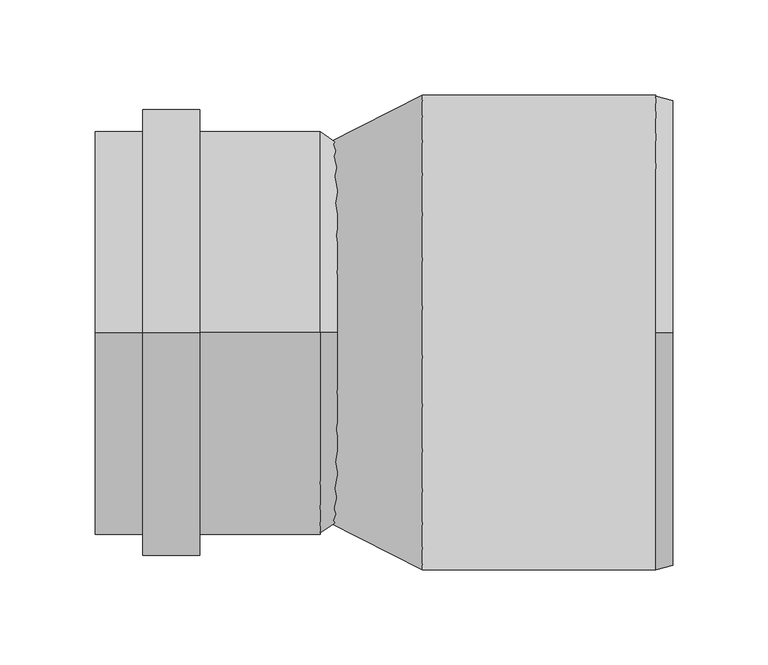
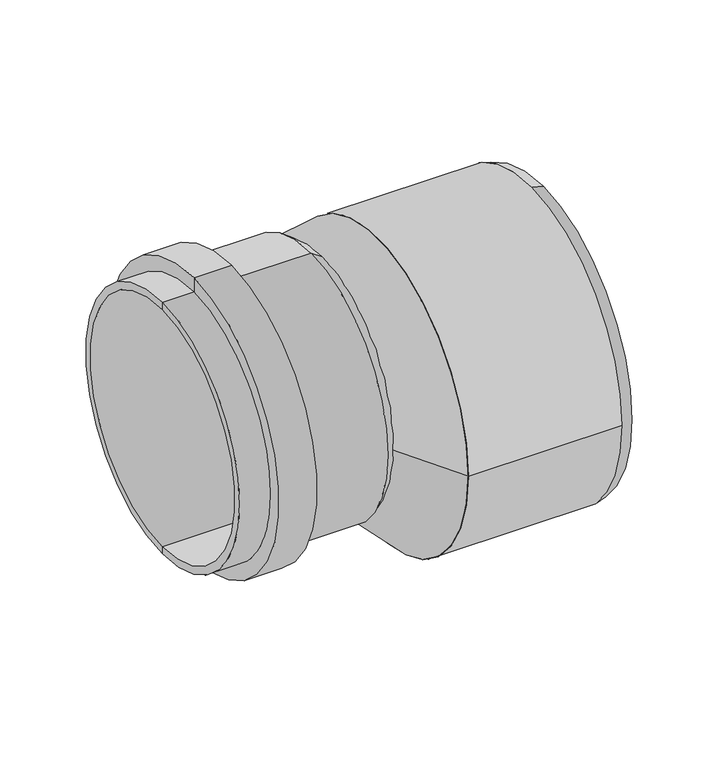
"""IFC4 building model written with IfcOpenShell, lengths in millimetres: pipe fitting geometry, OSMA_KG2000_PPKGR : Redukce nesouosá dlouhá."""

from ifc_helpers import new_model, si_unit, frame, origin, place, context, project, spatial, polyline, circle_curve, source, transform, mapped, element, save
from ifc_brep_helpers import plane_surface, cylinder_surface, revolved_surface, spline_surface, advanced_brep


def pipe_fitting_a9483296(model_context):
    return source(origin(), model_context, "Body", "AdvancedBrep", [
        advanced_brep(
        [(-4.5, 0.0, 100.0), (-4.5, 0.0, -100.0), (-123.0, 0.0, -100.0), (-123.0, 0.0, 100.0), (-68.0, 0.0, 106.2), (-68.0, 0.0, -106.2), (-4.5, 0.0, -106.2), (-4.5, 0.0, 106.2), (-68.0, 0.0, -118.0), (-68.0, 0.0, 118.0), (-98.0, 0.0, -118.0), (-98.0, 0.0, 118.0), (-98.0, 0.0, -106.2), (-98.0, 0.0, 106.2), (-123.0, 0.0, -106.2), (-123.0, 0.0, 106.2), (4.5, 0.0, 93.8), (4.5, 0.0, -93.8), (4.5, 0.0, 100.0), (4.5, 0.0, -100.0)],
        [
            (0, 1, circle_curve(frame((-4.5, 0.0, 0.0), z_axis=(1.0, 0.0, 0.0), x_axis=(0.0, 0.0, -1.0)), 100.0)),
            (1, 2),
            (2, 3, circle_curve(frame((-123.0, 0.0, 0.0), z_axis=(-1.0, 0.0, 0.0), x_axis=(0.0, 0.0, -1.0)), 100.0)),
            (3, 0),
            (1, 0, circle_curve(frame((-4.5, 0.0, 0.0), z_axis=(1.0, 0.0, 0.0), x_axis=(0.0, 0.0, -1.0)), 100.0)),
            (3, 2, circle_curve(frame((-123.0, 0.0, 0.0), z_axis=(-1.0, 0.0, 0.0), x_axis=(0.0, 0.0, -1.0)), 100.0)),
            (4, 5, circle_curve(frame((-68.0, 0.0, 0.0), z_axis=(1.0, 0.0, 0.0), x_axis=(0.0, 0.0, -1.0)), 106.2)),
            (5, 6),
            (6, 7, circle_curve(frame((-4.5, 0.0, 0.0), z_axis=(-1.0, 0.0, 0.0), x_axis=(0.0, 0.0, -1.0)), 106.2)),
            (7, 4),
            (8, 9, circle_curve(frame((-68.0, 0.0, 0.0), z_axis=(1.0, 0.0, 0.0), x_axis=(0.0, 0.0, -1.0)), 118.0)),
            (9, 4),
            (4, 5, circle_curve(frame((-68.0, 0.0, 0.0), z_axis=(-1.0, 0.0, 0.0), x_axis=(0.0, 0.0, -1.0)), 106.2)),
            (5, 8),
            (10, 11, circle_curve(frame((-98.0, 0.0, 0.0), z_axis=(1.0, 0.0, 0.0), x_axis=(0.0, 0.0, -1.0)), 118.0)),
            (11, 9),
            (8, 10),
            (12, 13, circle_curve(frame((-98.0, 0.0, 0.0), z_axis=(1.0, 0.0, 0.0), x_axis=(0.0, 0.0, -1.0)), 106.2)),
            (13, 11),
            (10, 12),
            (14, 15, circle_curve(frame((-123.0, 0.0, 0.0), z_axis=(1.0, 0.0, 0.0), x_axis=(0.0, 0.0, -1.0)), 106.2)),
            (15, 13),
            (12, 14),
            (16, 17, circle_curve(frame((4.5, 0.0, 0.0), z_axis=(1.0, 0.0, 0.0), x_axis=(0.0, 0.0, -1.0)), 93.8)),
            (17, 1),
            (0, 16),
            (17, 16, circle_curve(frame((4.5, 0.0, 0.0), z_axis=(1.0, 0.0, 0.0), x_axis=(0.0, 0.0, -1.0)), 93.8)),
            (18, 19, circle_curve(frame((4.5, 0.0, 0.0), z_axis=(1.0, 0.0, 0.0), x_axis=(0.0, 0.0, -1.0)), 100.0)),
            (19, 17),
            (16, 18),
            (19, 18, circle_curve(frame((4.5, 0.0, 0.0), z_axis=(1.0, 0.0, 0.0), x_axis=(0.0, 0.0, -1.0)), 100.0)),
            (6, 19),
            (18, 7),
            (6, 7, circle_curve(frame((-4.5, 0.0, 0.0), z_axis=(1.0, 0.0, 0.0), x_axis=(0.0, 0.0, -1.0)), 106.2)),
            (9, 8, circle_curve(frame((-68.0, 0.0, 0.0), z_axis=(1.0, 0.0, 0.0), x_axis=(0.0, 0.0, -1.0)), 118.0)),
            (11, 10, circle_curve(frame((-98.0, 0.0, 0.0), z_axis=(1.0, 0.0, 0.0), x_axis=(0.0, 0.0, -1.0)), 118.0)),
            (13, 12, circle_curve(frame((-98.0, 0.0, 0.0), z_axis=(1.0, 0.0, 0.0), x_axis=(0.0, 0.0, -1.0)), 106.2)),
            (15, 14, circle_curve(frame((-123.0, 0.0, 0.0), z_axis=(1.0, 0.0, 0.0), x_axis=(0.0, 0.0, -1.0)), 106.2)),
            (2, 14),
            (15, 3),
        ],
        [
            revolved_surface(polyline([(-123.0, 0.0, -100.0), (-4.5, 0.0, -100.0)]), (-2792.4742198, 0.0, 0.0), (-1.0, 0.0, 0.0)),
            cylinder_surface(frame((-2792.4742198, 0.0, 0.0), z_axis=(-1.0, 0.0, 0.0), x_axis=(0.0, 0.0, -1.0)), 106.2),
            plane_surface(frame((-68.0, 0.0, 0.0), z_axis=(1.0, 0.0, 0.0), x_axis=(0.0, 0.0, -1.0))),
            cylinder_surface(frame((-2792.4742198, 0.0, 0.0), z_axis=(-1.0, 0.0, 0.0), x_axis=(0.0, 0.0, -1.0)), 118.0),
            plane_surface(frame((-98.0, 0.0, 0.0), z_axis=(-1.0, 0.0, 0.0), x_axis=(0.0, 0.0, -1.0))),
            revolved_surface(polyline([(-4.5, 0.0, -100.0), (4.5, 0.0, -93.8)]), (-2792.4742198, 0.0, 0.0), (-1.0, 0.0, 0.0)),
            plane_surface(frame((4.5, 0.0, 0.0), z_axis=(1.0, 0.0, 0.0), x_axis=(0.0, 0.0, -1.0))),
            revolved_surface(polyline([(4.5, 0.0, -100.0), (-4.5, 0.0, -106.2)]), (-2792.4742198, 0.0, 0.0), (-1.0, 0.0, 0.0)),
            plane_surface(frame((-123.0, 0.0, 0.0), z_axis=(-1.0, 0.0, 0.0), x_axis=(0.0, 0.0, -1.0))),
        ],
        [
            (0, [[1, 2, 3, 4]]),
            (0, [[5, -4, 6, -2]]),
            (1, [[7, 8, 9, 10]]),
            (2, [[11, 12, 13, 14]]),
            (3, [[15, 16, -11, 17]]),
            (4, [[18, 19, -15, 20]]),
            (1, [[21, 22, -18, 23]]),
            (5, [[24, 25, -1, 26]]),
            (5, [[27, -26, -5, -25]]),
            (6, [[28, 29, -24, 30]]),
            (6, [[31, -30, -27, -29]]),
            (7, [[-9, 32, -28, 33]]),
            (7, [[34, -33, -31, -32]]),
            (1, [[-13, -10, -34, -8]]),
            (2, [[35, -14, -7, -12]]),
            (3, [[36, -17, -35, -16]]),
            (4, [[37, -20, -36, -19]]),
            (1, [[38, -23, -37, -22]]),
            (8, [[-3, 39, -38, 40]]),
            (8, [[-6, -40, -21, -39]]),
        ],
    ),
        advanced_brep(
        [(181.0, 0.0, -147.5884573), (181.0, 0.0, 97.5884573), (181.0, 0.0, 92.3), (181.0, 0.0, -142.3), (172.0, 0.0, -150.0), (172.0, 125.0, -25.0), (172.0, 0.0, 100.0), (172.0, -125.0, -25.0), (172.0, 0.0, 92.3), (172.0, 0.0, -142.3), (49.0, 125.0, -25.0), (49.0, -125.0, -25.0)],
        [
            (0, 1, circle_curve(frame((181.0, 0.0, -25.0), z_axis=(1.0, 0.0, 0.0), x_axis=(0.0, 0.0, 1.0)), 122.5884573)),
            (1, 2),
            (2, 3, circle_curve(frame((181.0, 0.0, -25.0), z_axis=(-1.0, 0.0, 0.0), x_axis=(0.0, 0.0, 1.0)), 117.3)),
            (3, 0),
            (1, 0, circle_curve(frame((181.0, 0.0, -25.0), z_axis=(1.0, 0.0, 0.0), x_axis=(0.0, 0.0, 1.0)), 122.5884573)),
            (3, 2, circle_curve(frame((181.0, 0.0, -25.0), z_axis=(-1.0, 0.0, 0.0), x_axis=(0.0, 0.0, 1.0)), 117.3)),
            (0, 4),
            (4, 5, circle_curve(frame((172.0, 0.0, -25.0), z_axis=(1.0, 0.0, 0.0), x_axis=(0.0, 0.0, 1.0)), 125.0)),
            (5, 6, circle_curve(frame((172.0, 0.0, -25.0), z_axis=(1.0, 0.0, 0.0), x_axis=(0.0, 0.0, 1.0)), 125.0)),
            (6, 1),
            (6, 7, circle_curve(frame((172.0, 0.0, -25.0), z_axis=(1.0, 0.0, 0.0), x_axis=(0.0, 0.0, 1.0)), 125.0)),
            (7, 4, circle_curve(frame((172.0, 0.0, -25.0), z_axis=(1.0, 0.0, 0.0), x_axis=(0.0, 0.0, 1.0)), 125.0)),
            (2, 8),
            (8, 9, circle_curve(frame((172.0, 0.0, -25.0), z_axis=(-1.0, 0.0, 0.0), x_axis=(0.0, 0.0, 1.0)), 117.3)),
            (9, 3),
            (9, 8, circle_curve(frame((172.0, 0.0, -25.0), z_axis=(-1.0, 0.0, 0.0), x_axis=(0.0, 0.0, 1.0)), 117.3)),
            (10, 11, circle_curve(frame((49.0, 0.0, -25.0), z_axis=(-1.0, 0.0, 0.0), x_axis=(0.0, -1.0, 0.0)), 125.0)),
            (11, 10, circle_curve(frame((49.0, 0.0, -25.0), z_axis=(-1.0, 0.0, 0.0), x_axis=(0.0, -1.0, 0.0)), 125.0)),
            (11, 7),
            (5, 10),
        ],
        [
            plane_surface(frame((181.0, 0.0, -25.0), z_axis=(1.0, 0.0, 0.0), x_axis=(0.0, 0.0, 1.0))),
            revolved_surface(polyline([(181.0, 0.0, 97.5884573), (172.0, 0.0, 100.0)]), (67.4287569, 0.0, -25.0), (-1.0, 0.0, 0.0)),
            revolved_surface(polyline([(172.0, 0.0, 92.3), (181.0, 0.0, 92.3)]), (67.4287569, 0.0, -25.0), (-1.0, 0.0, 0.0)),
            plane_surface(frame((172.0, 0.0, 0.0), z_axis=(1.0, 0.0, 0.0), x_axis=(0.0, 0.0, 1.0))),
            plane_surface(frame((49.0, 0.0, 0.0), z_axis=(-1.0, 0.0, 0.0), x_axis=(0.0, 0.0, 1.0))),
            cylinder_surface(frame((172.0, 0.0, -25.0), z_axis=(1.0, 0.0, 0.0), x_axis=(0.0, -1.0, 0.0)), 125.0),
        ],
        [
            (0, [[1, 2, 3, 4]]),
            (0, [[-2, 5, -4, 6]]),
            (1, [[-1, 7, 8, 9, 10]]),
            (1, [[-5, -10, 11, 12, -7]]),
            (2, [[-3, 13, 14, 15]]),
            (2, [[-6, -15, 16, -13]]),
            (3, [[-14, -16]]),
            (4, [[17, 18]]),
            (5, [[-18, 19, -11, -9, 20]]),
            (5, [[-17, -20, -8, -12, -19]]),
        ],
    ),
        advanced_brep(
        [(0.0, 100.0, 0.0), (0.0, -100.0, 0.0), (49.0, 125.0, -25.0), (49.0, -125.0, -25.0)],
        [
            (0, 1, circle_curve(frame((0.0, 0.0, 0.0), z_axis=(-1.0, 0.0, 0.0), x_axis=(0.0, -1.0, 0.0)), 100.0)),
            (1, 0, circle_curve(frame((0.0, 0.0, 0.0), z_axis=(-1.0, 0.0, 0.0), x_axis=(0.0, -1.0, 0.0)), 100.0)),
            (2, 3, circle_curve(frame((49.0, 0.0, -25.0), z_axis=(1.0, 0.0, 0.0), x_axis=(0.0, -1.0, 0.0)), 125.0)),
            (3, 2, circle_curve(frame((49.0, 0.0, -25.0), z_axis=(1.0, 0.0, 0.0), x_axis=(0.0, -1.0, 0.0)), 125.0)),
            (3, 1),
            (0, 2),
        ],
        [
            plane_surface(frame((0.0, 0.0, 0.0), z_axis=(-1.0, 0.0, 0.0), x_axis=(0.0, 0.0, -1.0))),
            plane_surface(frame((49.0, 0.0, -25.0), z_axis=(1.0, 0.0, 0.0), x_axis=(0.0, 0.0, -1.0))),
            spline_surface(2, 1, [[(49.0, 125.0, -25.0), (0.0, 100.0, 0.0)], [(49.0, 125.0, -150.0), (0.0, 100.0, -100.0)], [(49.0, 0.0, -150.0), (0.0, 0.0, -100.0)], [(49.0, -125.0, -150.0), (0.0, -100.0, -100.0)], [(49.0, -125.0, -25.0), (0.0, -100.0, 0.0)]], [3, 2, 3], [2, 2], [0.0, 1.0, 2.0], [0.0, 1.0], weights=[[1.0, 1.0], [0.7071067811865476, 0.7071067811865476], [1.0, 1.0], [0.7071067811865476, 0.7071067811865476], [1.0, 1.0]]),
            spline_surface(2, 1, [[(49.0, -125.0, -25.0), (0.0, -100.0, 0.0)], [(49.0, -125.0, 100.0), (0.0, -100.0, 100.0)], [(49.0, 0.0, 100.0), (0.0, 0.0, 100.0)], [(49.0, 125.0, 100.0), (0.0, 100.0, 100.0)], [(49.0, 125.0, -25.0), (0.0, 100.0, 0.0)]], [3, 2, 3], [2, 2], [0.0, 1.0, 2.0], [0.0, 1.0], weights=[[1.0, 1.0], [0.7071067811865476, 0.7071067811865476], [1.0, 1.0], [0.7071067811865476, 0.7071067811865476], [1.0, 1.0]]),
        ],
        [
            (0, [[1, 2]]),
            (1, [[3, 4]]),
            (2, [[-4, 5, -1, 6]]),
            (3, [[-3, -6, -2, -5]]),
        ],
    ),
    ])


if __name__ == "__main__":
    model = new_model("IFC4")
    model_context = context("Model", 3, world=origin())
    ifc_project = project(units=[si_unit("LENGTHUNIT", "METRE", prefix="MILLI")], contexts=[model_context])
    site = spatial("IfcSite", under=ifc_project)
    building = spatial("IfcBuilding", under=site)
    placement = place(None, origin())
    pipe_fitting_shape = pipe_fitting_a9483296(model_context)
    element("IfcPipeFitting", 1, ObjectType="OSMA_KG2000_PPKGR : Redukce nesouosá dlouhá", at=placement, inside=building, context=model_context, shape_type="MappedRepresentation", body=[
        mapped(pipe_fitting_shape, transform((0.0, 0.0, 0.0), x_axis=(1.0, 0.0, 0.0), y_axis=(0.0, 1.0, 0.0), z_axis=(0.0, 0.0, 1.0))),
    ])
    save(model, "model.ifc")
